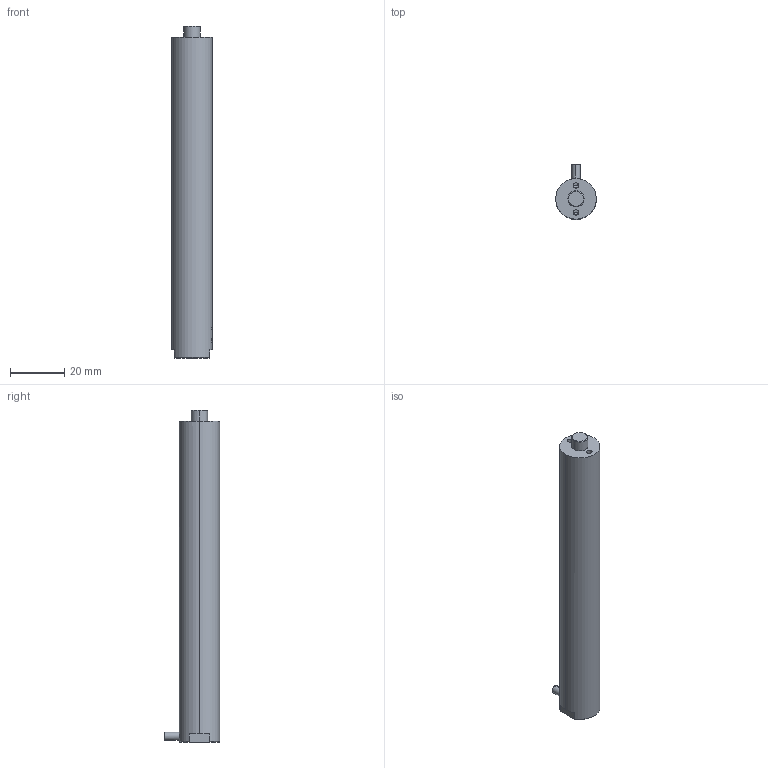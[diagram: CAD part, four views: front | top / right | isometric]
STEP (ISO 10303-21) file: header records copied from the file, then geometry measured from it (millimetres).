
FILE_DESCRIPTION (( 'STEP AP203' ), '1' );
FILE_NAME ('120VS15ƽͷ.STEP', '2024-11-30T07:07:41', ( 'daohangxitong.com' ), ( 'daohangxitong.com' ), 'SwSTEP 2.0', 'SolidWorks 2016', '' );
FILE_SCHEMA (( 'CONFIG_CONTROL_DESIGN' ));
Products named in the file (1): 120VS15ƽͷ
Bounding box: 15 x 20.5 x 122.8 mm (x, y, z)
Volume: 21029.8 mm3; surface area: 6136.1 mm2
Topology: 1 solids, 1 shells, 704 faces, 2015 edges, 1337 vertices
Faces by surface type: bspline 618, cylinder 42, plane 32, cone 12
Entity records: 39599 total; most frequent: CARTESIAN_POINT 26712, ORIENTED_EDGE 4018, EDGE_CURVE 2009, B_SPLINE_CURVE_WITH_KNOTS 1894, VERTEX_POINT 1337, EDGE_LOOP 734, FACE_OUTER_BOUND 704, ADVANCED_FACE 704
